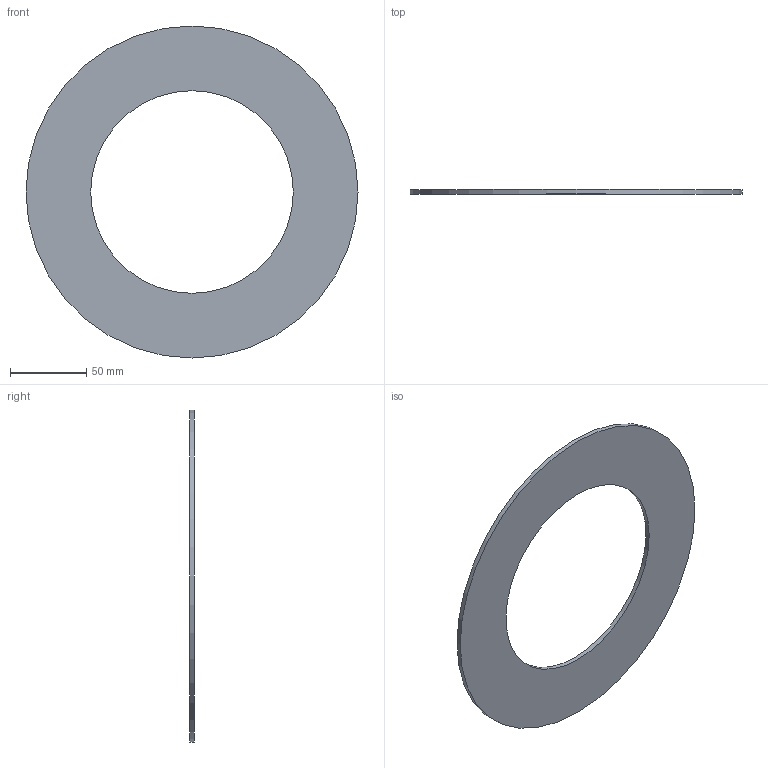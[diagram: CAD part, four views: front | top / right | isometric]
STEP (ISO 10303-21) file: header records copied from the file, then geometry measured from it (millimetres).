
FILE_DESCRIPTION(/* description */ ('Unknown'),/* implementation_level */ '2;1');
FILE_NAME(/* name */ 'GUA.160C',/* time_stamp */ '2021-04-01T12:23:45+02:00',/* author */ ('Unknown'),/* organization */ ('Unknown'),/* preprocessor_version */ 'ST-DEVELOPER v16.7',/* originating_system */ 'Solid Edge',/* authorisation */ 'Unknown');
FILE_SCHEMA (('AUTOMOTIVE_DESIGN {1 0 10303 214 3 1 1}'));
Length unit declared in the file: millimetre
Products named in the file (1): GUA.160C
Bounding box: 218 x 3 x 218 mm (x, y, z)
Volume: 70297.1 mm3; surface area: 50172.8 mm2
Topology: 1 solids, 1 shells, 4 faces, 6 edges, 4 vertices
Faces by surface type: cylinder 2, plane 2
Full cylindrical faces by diameter (mm): 133 x1, 218 x1
Entity records: 118 total; most frequent: DIRECTION 18, CARTESIAN_POINT 13, AXIS2_PLACEMENT_3D 9, ORIENTED_EDGE 8, EDGE_LOOP 8, FACE_BOUND 8, EDGE_CURVE 4, VERTEX_POINT 4
